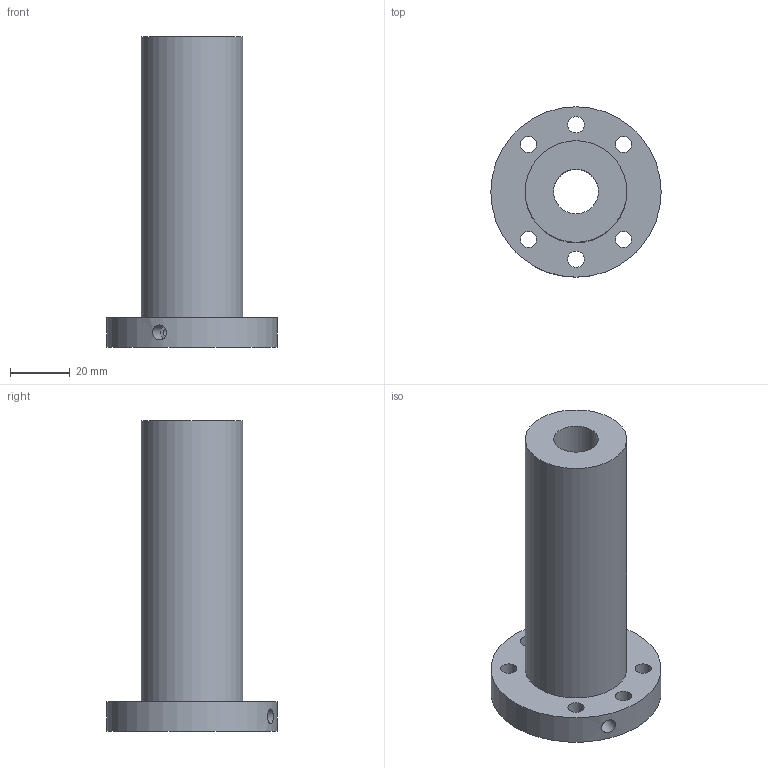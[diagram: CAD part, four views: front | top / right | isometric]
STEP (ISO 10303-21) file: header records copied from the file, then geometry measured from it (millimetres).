
FILE_DESCRIPTION(/* description */ (''),/* implementation_level */ '2;1');
FILE_NAME(/* name */ '15-20K2_3175',/* time_stamp */ '2007-10-15T12:54:02+08:00',/* author */ (''),/* organization */ (''),/* preprocessor_version */ 'ST-DEVELOPER v11',/* originating_system */ 'UGS - NX 5.0',/* authorisation */ '');
FILE_SCHEMA (('CONFIG_CONTROL_DESIGN'));
Length unit declared in the file: millimetre
Products named in the file (1): 15-20K2_3175
Bounding box: 57 x 57 x 104 mm (x, y, z)
Volume: 90822.2 mm3; surface area: 22461.4 mm2
Topology: 1 solids, 1 shells, 15 faces, 34 edges, 23 vertices
Faces by surface type: cylinder 11, plane 4
Full cylindrical faces by diameter (mm): 3 x1, 5 x1, 5.5 x6, 15 x1, 34 x1, 57 x1
Entity records: 600 total; most frequent: CARTESIAN_POINT 174, DIRECTION 72, FACE_BOUND 44, EDGE_LOOP 44, ORIENTED_EDGE 44, AXIS2_PLACEMENT_3D 36, VERTEX_POINT 22, EDGE_CURVE 22
